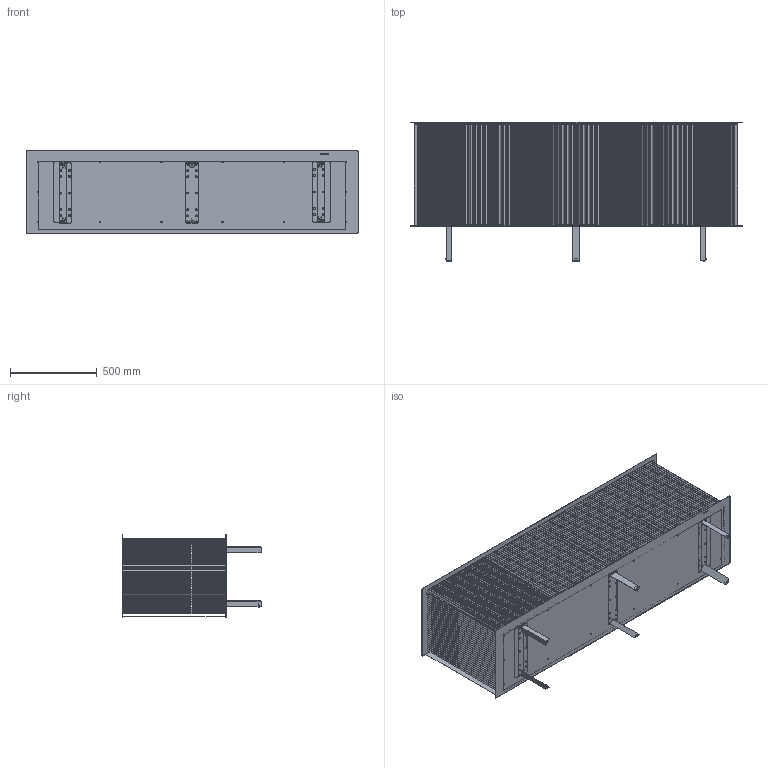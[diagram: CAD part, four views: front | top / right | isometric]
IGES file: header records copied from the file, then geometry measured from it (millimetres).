
Start section: SolidWorks IGES file using analytic representation for surfaces
Global section: file name: \\192.168.0.53\Reserch Development\SITO WEB\2024\FFG26A~6\Prodotti\3D\De Castelli - 3D - Elizabeth Sideboard 183-4.IGS; native system: SolidWorks 2025; preprocessor: SolidWorks 2025; author: lauraa; date: 260211.085922; units: millimetre
Bounding box: 1912 x 800 x 477 mm (x, y, z)
Surface area: 9319740.6 mm2 (no closed solid volume)
Topology: 0 solids, 0 shells, 873 faces, 8255 edges, 8252 vertices
Faces by surface type: bspline 552, revolution 321
